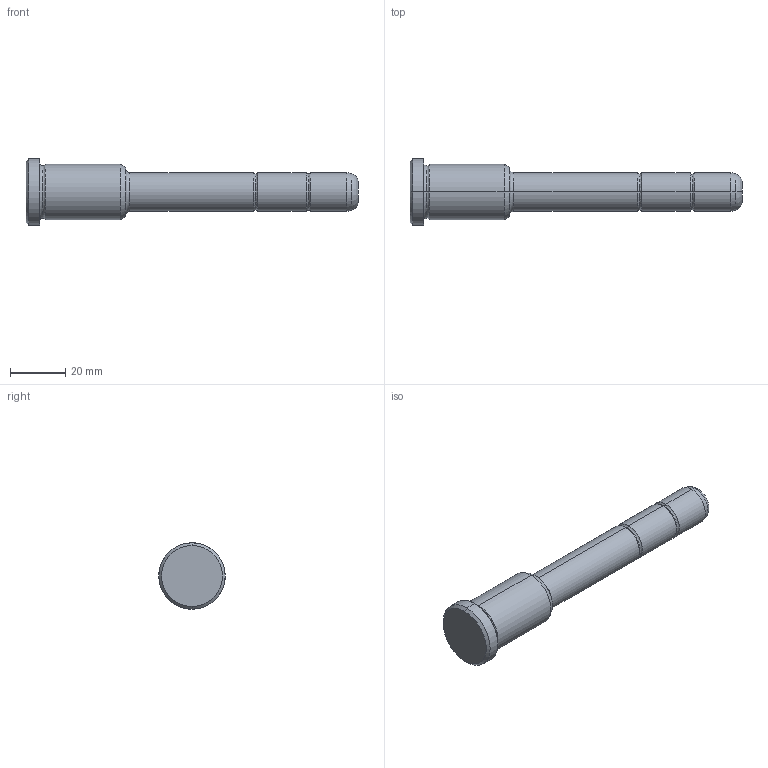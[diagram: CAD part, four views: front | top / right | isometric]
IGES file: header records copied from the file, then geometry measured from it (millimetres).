
Start section: START RECORD GO HERE.
Global section: file name: 351-14X36X120.igs; native system: DASSAULT SYSTEMES CATIA V5 R20 - www.3ds.com; preprocessor: CATIA Version 5 Release 20 ; author: Utente; organization: NB04-ASUS; date: 20210818.124437; units: millimetre
Bounding box: 120 x 24 x 24 mm (x, y, z)
Surface area: 6761 mm2 (no closed solid volume)
Topology: 0 solids, 0 shells, 36 faces, 204 edges, 204 vertices
Faces by surface type: revolution 32, plane 4
